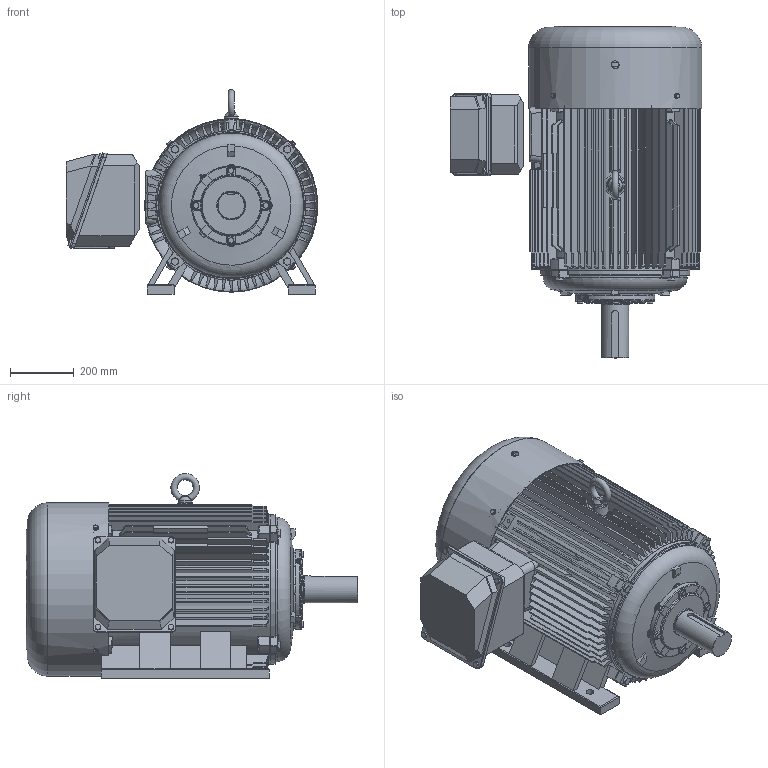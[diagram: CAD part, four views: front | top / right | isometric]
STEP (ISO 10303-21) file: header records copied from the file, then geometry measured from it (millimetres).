
FILE_DESCRIPTION(/* description */ ('Unknown'),/* implementation_level */ '2;1');
FILE_NAME(/* name */ '1-SMA-37433-1_외형도(445DIA)',/* time_stamp */ '2026-07-24T08:24:45+09:00',/* author */ ('Unknown'),/* organization */ ('Unknown'),/* preprocessor_version */ 'ST-DEVELOPER v16',/* originating_system */ 'DEX',/* authorisation */ $);
FILE_SCHEMA (('AUTOMOTIVE_DESIGN {1 0 10303 214 3 1 1}'));
Products named in the file (23): 1-SMA-37433-1_寇屈档(445DI; 2-SMA-34497_FRAME(445DIA); 3-1-SMA-36535-1_擅粽塭鰍(445D; 4-1-SMA-36535_菴粽塭鰍(445D; 3-2_SMA-34379_菊海绢傅目滚(郴)(4磁凉湮劶(; 3-3_SMA-34378_菊海绢傅目滚(寇)(4恴~; 4-2_SMA-34445_第海绢傅目滚(郴)(3磁凉湮劶(; 4-3_SMA-34444_第海绢傅目滚(寇)(3廊; 7-SMA-34311_FAN COVER(445DIA); 6-SMA-34339-1_FAN(445DIA); 5-SMA-37766_SHAFT(445DIA); 幫陝獐お M10x1.5x1.5x15L; 腊阿敲罚瘤 M8x1.251; 幫陝獐お M10x1.5x; 6318ZZ; 幫陝獐お M14x2.0x; 幫陝獐お M12x1.75x; ｱﾗｸｮｽｺ ｴﾏﾇﾃ PF 1ﾀoB; I獐お M24x3.0x383; 9-SMA-37458M_T-BOX(ж)(400~445DIA)X; 8-SMA-37459M_T-BOX(鼻)(400~445DIA)e; 6316ZZ; 蹴辨 S6
Assembly tree (42 placements, depth 2):
  1-SMA-37433-1_寇屈档(445DI
    2-SMA-34497_FRAME(445DIA)
    3-1-SMA-36535-1_擅粽塭鰍(445D
    4-1-SMA-36535_菴粽塭鰍(445D
    3-2_SMA-34379_菊海绢傅目滚(郴)(4磁凉湮劶(
    3-3_SMA-34378_菊海绢傅目滚(寇)(4恴~
    4-2_SMA-34445_第海绢傅目滚(郴)(3磁凉湮劶(
    4-3_SMA-34444_第海绢傅目滚(寇)(3廊
    7-SMA-34311_FAN COVER(445DIA)
    6-SMA-34339-1_FAN(445DIA)
    5-SMA-37766_SHAFT(445DIA)
    幫陝獐お M10x1.5x1.5x15L  x4
    腊阿敲罚瘤 M8x1.251  x4
    幫陝獐お M10x1.5x  x8
    6318ZZ
    幫陝獐お M14x2.0x  x8
    幫陝獐お M12x1.75x
    ｱﾗｸｮｽｺ ｴﾏﾇﾃ PF 1ﾀoB
    I獐お M24x3.0x383
    9-SMA-37458M_T-BOX(ж)(400~445DIA)X
    8-SMA-37459M_T-BOX(鼻)(400~445DIA)e
    6316ZZ
    蹴辨 S6
Bounding box: 793 x 1045 x 644.95 mm (x, y, z)
Volume: 43579877.6 mm3; surface area: 8207807.2 mm2
Topology: 65 solids, 65 shells, 5652 faces, 15702 edges, 10188 vertices
Faces by surface type: plane 3772, cylinder 681, cone 523, bspline 343, torus 285, sphere 48
Full cylindrical faces by diameter (mm): 2.5 x2, 6.647 x13, 8 x4, 8.376 x12, 10 x26, 10.106 x2, 11.445 x2, 11.835 x8, 12 x30, 13.157 x2, 14 x16, 16 x8, 17.5 x4, 20.752 x1, 24 x7, 45 x1, 56.656 x1, 79.8 x1, 80 x2, 81 x3, 85 x1, 87 x2, 88 x1, 89 x3, 89.8 x1, 90 x2, 91 x3, 95 x2, 97 x2, 100 x2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
Entity records: 230150 total; most frequent: CARTESIAN_POINT 82127, ORIENTED_EDGE 28862, DIRECTION 24327, EDGE_CURVE 14431, LINE 10191, VECTOR 10191, VERTEX_POINT 9597, FACE_BOUND 7290
